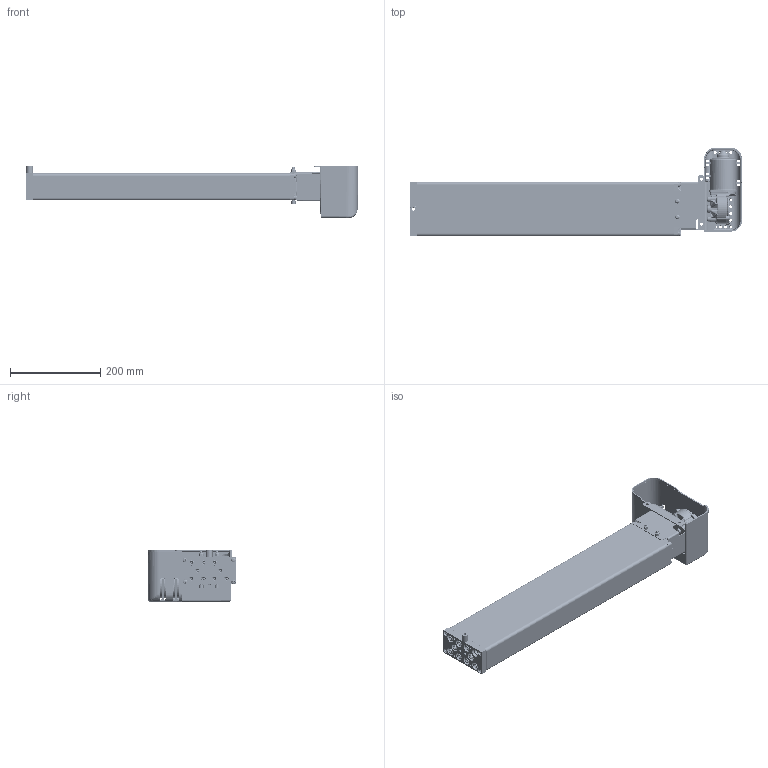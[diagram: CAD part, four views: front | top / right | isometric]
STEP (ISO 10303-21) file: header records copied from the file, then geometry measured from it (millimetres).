
FILE_DESCRIPTION(/* description */ ('Unknown'),/* implementation_level */ '2;1');
FILE_NAME(/* name */ '3X2.20274 Pumpe PB 9840 W mit Antrieb',/* time_stamp */ '2016-11-25T15:16:15+01:00',/* author */ ('Unknown'),/* organization */ ('Unknown'),/* preprocessor_version */ 'ST-DEVELOPER v16.7',/* originating_system */ 'DEX',/* authorisation */ $);
FILE_SCHEMA (('AUTOMOTIVE_DESIGN {1 0 10303 214 3 1 1}'));
Products named in the file (33): 102.00274; 115.10034; 125.00061; 115.00008; 142.00021; 125.00021; 142.00013; 125.00144; 115.00140; 126.00006; 122.00040; 119.00044; 126.00036; 127.00201; 127.00200; 127.00023; 124.00090; Getriebe; Ring; Schraube; Stator; Abdeckplatte; Antriebswelle; 128.00051; 123.00031; 142.00018; 142.00019; 142.00025; 142.00131; 123.00029; 142.00057; 142.00083; 142.00017
Assembly tree (56 placements, depth 3):
  102.00274
    115.10034  x9
      125.00061
      115.00008
      142.00021
      125.00021
    142.00013  x8
    125.00144
    115.00140
      126.00006
      122.00040
    119.00044
    126.00036
    127.00201
      127.00200
      127.00023
    124.00090
      Getriebe
      Ring
      Schraube
      Stator
      Abdeckplatte
      Antriebswelle
    128.00051
    123.00031
    142.00018  x2
    142.00019  x2
    142.00025  x2
    142.00131  x3
    123.00029
    142.00057
    142.00083  x4
    142.00017  x2
Bounding box: 736.45 x 196.04 x 115.45 mm (x, y, z)
Volume: 1259700.1 mm3; surface area: 815991 mm2
Topology: 67 solids, 69 shells, 4475 faces, 11175 edges, 6853 vertices
Faces by surface type: plane 1419, cylinder 1203, bspline 1040, cone 508, torus 206, sphere 99
Full cylindrical faces by diameter (mm): 2.5 x4, 3.2 x4, 3.5 x9, 3.9 x5, 4.1 x9, 4.134 x4, 4.2 x11, 4.4 x5, 4.5 x1, 4.917 x4, 5 x12, 5.5 x5, 5.8 x4, 6 x8, 6.4 x2, 6.8 x6, 6.917 x18, 7 x1, 8 x20, 8.5 x10, 9 x2, 9.5 x1, 9.8 x8, 10 x10, 10.3 x1, 10.32 x1, 10.4 x1, 10.5 x4, 11 x5, 12.5 x9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
Entity records: 165450 total; most frequent: CARTESIAN_POINT 80684, ORIENTED_EDGE 16058, DIRECTION 12095, EDGE_CURVE 8029, VERTEX_POINT 5273, AXIS2_PLACEMENT_3D 4682, FACE_BOUND 4022, EDGE_LOOP 4017
